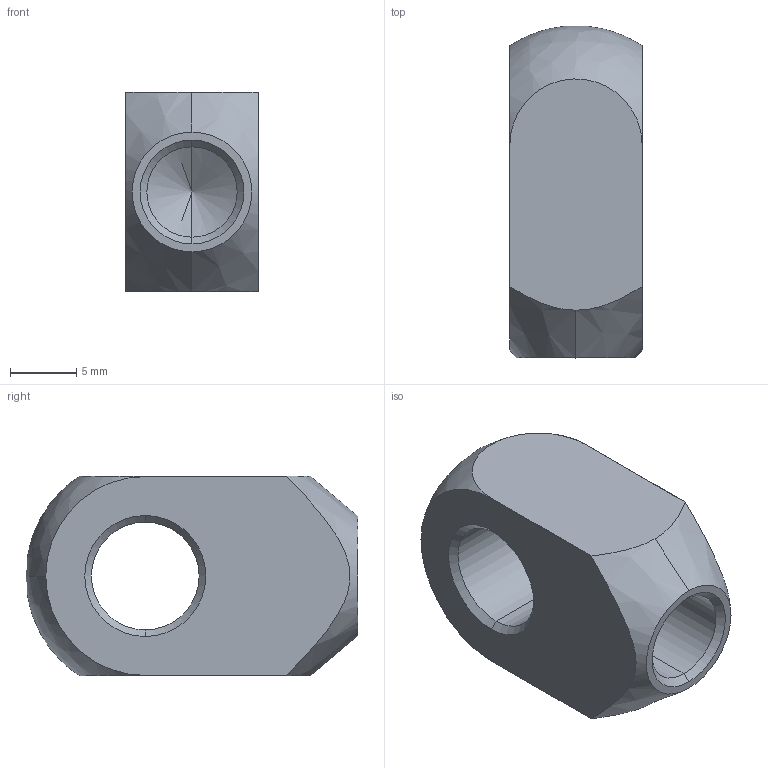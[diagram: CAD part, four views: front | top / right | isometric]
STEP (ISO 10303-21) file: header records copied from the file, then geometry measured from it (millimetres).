
FILE_DESCRIPTION (( 'STEP AP214' ), '1' );
FILE_NAME ('18.08A1FASEALU.STEP', '2017-10-21T12:57:58', ( '' ), ( '' ), 'SwSTEP 2.0', 'SolidWorks 2016', '' );
FILE_SCHEMA (( 'AUTOMOTIVE_DESIGN' ));
Length unit declared in the file: millimetre
Products named in the file (1): 18.08A1FASEALU
Bounding box: 10 x 24.97 x 15 mm (x, y, z)
Volume: 2466.8 mm3; surface area: 1601.9 mm2
Topology: 1 solids, 1 shells, 25 faces, 61 edges, 37 vertices
Faces by surface type: cone 10, cylinder 8, plane 5, bspline 2
Entity records: 934 total; most frequent: CARTESIAN_POINT 316, DIRECTION 128, ORIENTED_EDGE 118, EDGE_CURVE 59, AXIS2_PLACEMENT_3D 53, VERTEX_POINT 37, CIRCLE 29, EDGE_LOOP 28
